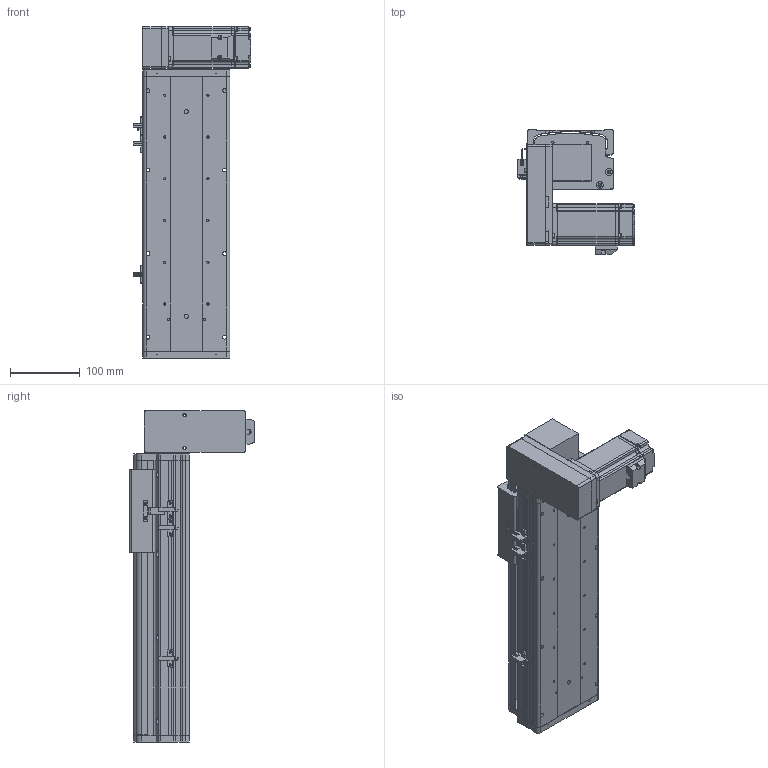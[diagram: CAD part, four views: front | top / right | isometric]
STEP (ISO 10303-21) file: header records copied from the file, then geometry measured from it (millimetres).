
FILE_DESCRIPTION (( 'STEP AP214' ), '1' );
FILE_NAME ('KSD125B-S200-MRD-CM.STEP', '2017-10-21T05:57:00', ( '微软用户' ), ( '微软中国' ), 'SwSTEP 2.0', 'SolidWorks 2014', '' );
FILE_SCHEMA (( 'AUTOMOTIVE_DESIGN' ));
Length unit declared in the file: millimetre
Products named in the file (17): 100宽马达安装板连板上下折丝杆同步带; KSD125模组200行程同步带-防尘盖; 125模组200行程同步带-底板; MHMD042G1CA_2_03; KSD125模组同步带-防撞垫2; 覜茼え68遵圉猾敕; U倰嫖萇假蚾璃; U倰嫖萇EEㄜSX672; KSD125模组同步带-防撞垫1; 100宽马达安装板同步带右; 前端板-125宽模组同步带; 125模组同步带-尾端板1; KSD125模组同步带-滑动座1; KSD125B-S200-MRD-CM; 悵誘欶奻狟殏; HTPA30S3M150_A_H6_a佪裝蚚; HTPA30S3M150_A_H6_a萇儂蚚
Assembly tree (20 placements, depth 2):
  KSD125B-S200-MRD-CM
    KSD125模组同步带-滑动座1
    125模组同步带-尾端板1
    前端板-125宽模组同步带
    100宽马达安装板同步带右
    KSD125模组同步带-防撞垫1
    U倰嫖萇EEㄜSX672  x3
    U倰嫖萇假蚾璃  x3
    覜茼え68遵圉猾敕
    KSD125模组同步带-防撞垫2
    MHMD042G1CA_2_03
    125模组200行程同步带-底板
    KSD125模组200行程同步带-防尘盖
    100宽马达安装板连板上下折丝杆同步带
    HTPA30S3M150_A_H6_a萇儂蚚
    HTPA30S3M150_A_H6_a佪裝蚚
    悵誘欶奻狟殏
Bounding box: 168.7 x 179.5 x 477 mm (x, y, z)
Volume: 1790046.3 mm3; surface area: 647864.5 mm2
Topology: 19 solids, 22 shells, 2199 faces, 6361 edges, 4202 vertices
Faces by surface type: cylinder 1356, plane 716, cone 105, bspline 22
Entity records: 77651 total; most frequent: CARTESIAN_POINT 15387, DIRECTION 12086, ORIENTED_EDGE 11242, EDGE_CURVE 5699, AXIS2_PLACEMENT_3D 4653, VERTEX_POINT 3794, VECTOR 2780, LINE 2780
